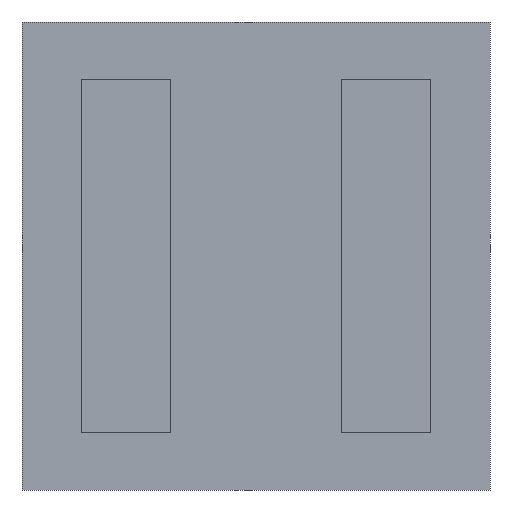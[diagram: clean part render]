
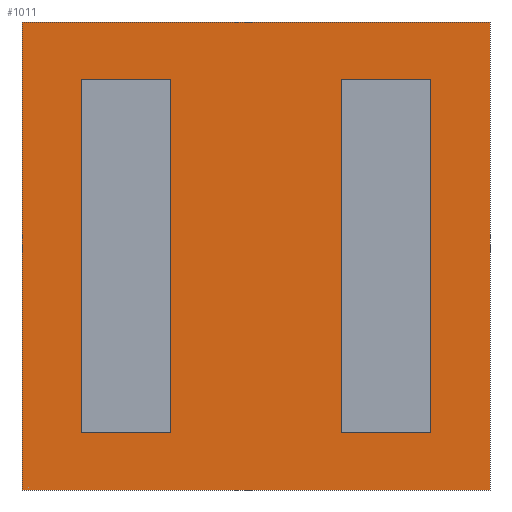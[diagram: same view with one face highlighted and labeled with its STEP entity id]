
A CAD part, front view. The second image highlights one B-rep face of the part: STEP entity #1011.
In plain terms, the highlighted planar face has unit normal (0, -1, 0).
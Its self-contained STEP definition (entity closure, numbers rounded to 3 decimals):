
#17 = CARTESIAN_POINT ( 'NONE',  ( -2.15, 0., 2.15 ) ) ;
#77 = DIRECTION ( 'NONE',  ( 0., 0., -1. ) ) ;
#127 = VECTOR ( 'NONE', #3239, 1000. ) ;
#178 = VERTEX_POINT ( 'NONE', #1830 ) ;
#276 = DIRECTION ( 'NONE',  ( 0., 0., -1. ) ) ;
#338 = CARTESIAN_POINT ( 'NONE',  ( 2.15, 0., -2.15 ) ) ;
#347 = VERTEX_POINT ( 'NONE', #1071 ) ;
#357 = VECTOR ( 'NONE', #77, 1000. ) ;
#426 = EDGE_CURVE ( 'NONE', #178, #2842, #894, .T. ) ;
#439 = DIRECTION ( 'NONE',  ( 0., 1., 0. ) ) ;
#465 = CARTESIAN_POINT ( 'NONE',  ( -2.15, 0., -2.15 ) ) ;
#470 = DIRECTION ( 'NONE',  ( 1., 0., 0. ) ) ;
#503 = EDGE_CURVE ( 'NONE', #1409, #2242, #2109, .T. ) ;
#525 = DIRECTION ( 'NONE',  ( 1., 0., 0. ) ) ;
#555 = VECTOR ( 'NONE', #276, 1000. ) ;
#557 = CARTESIAN_POINT ( 'NONE',  ( 2.15, 0., -2.15 ) ) ;
#562 = LINE ( 'NONE', #2851, #555 ) ;
#654 = FACE_BOUND ( 'NONE', #3563, .T. ) ;
#659 = ORIENTED_EDGE ( 'NONE', *, *, #503, .F. ) ;
#666 = ORIENTED_EDGE ( 'NONE', *, *, #3324, .F. ) ;
#681 = VECTOR ( 'NONE', #1121, 1000. ) ;
#723 = VERTEX_POINT ( 'NONE', #3195 ) ;
#777 = LINE ( 'NONE', #1073, #3430 ) ;
#790 = DIRECTION ( 'NONE',  ( 0., 0., 1. ) ) ;
#805 = VERTEX_POINT ( 'NONE', #999 ) ;
#825 = EDGE_CURVE ( 'NONE', #723, #805, #1076, .T. ) ;
#851 = CARTESIAN_POINT ( 'NONE',  ( 1.605, 0., 1.625 ) ) ;
#894 = LINE ( 'NONE', #851, #3004 ) ;
#913 = ORIENTED_EDGE ( 'NONE', *, *, #1844, .F. ) ;
#922 = CARTESIAN_POINT ( 'NONE',  ( -0.785, 0., 1.625 ) ) ;
#999 = CARTESIAN_POINT ( 'NONE',  ( -1.605, 0., 1.625 ) ) ;
#1011 = ADVANCED_FACE ( 'NONE', ( #2135, #3234, #654 ), #2151, .F. ) ;
#1037 = LINE ( 'NONE', #465, #1762 ) ;
#1053 = EDGE_CURVE ( 'NONE', #3213, #178, #777, .T. ) ;
#1064 = CARTESIAN_POINT ( 'NONE',  ( -2.15, 0., -2.15 ) ) ;
#1066 = CARTESIAN_POINT ( 'NONE',  ( 1.605, 0., -1.625 ) ) ;
#1071 = CARTESIAN_POINT ( 'NONE',  ( -2.15, 0., 2.15 ) ) ;
#1073 = CARTESIAN_POINT ( 'NONE',  ( 1.605, 0., -1.625 ) ) ;
#1076 = LINE ( 'NONE', #1846, #3599 ) ;
#1121 = DIRECTION ( 'NONE',  ( -1., 0., 0. ) ) ;
#1254 = ORIENTED_EDGE ( 'NONE', *, *, #825, .F. ) ;
#1391 = VECTOR ( 'NONE', #3183, 1000. ) ;
#1403 = CARTESIAN_POINT ( 'NONE',  ( -2.15, 0., -2.15 ) ) ;
#1407 = DIRECTION ( 'NONE',  ( -1., 0., 0. ) ) ;
#1409 = VERTEX_POINT ( 'NONE', #2078 ) ;
#1428 = CARTESIAN_POINT ( 'NONE',  ( 0.785, 0., -1.625 ) ) ;
#1495 = CARTESIAN_POINT ( 'NONE',  ( 0.785, 0., 1.625 ) ) ;
#1576 = DIRECTION ( 'NONE',  ( 1., 0., 0. ) ) ;
#1580 = ORIENTED_EDGE ( 'NONE', *, *, #2340, .F. ) ;
#1600 = EDGE_CURVE ( 'NONE', #3196, #723, #3469, .T. ) ;
#1604 = ORIENTED_EDGE ( 'NONE', *, *, #3229, .F. ) ;
#1609 = ORIENTED_EDGE ( 'NONE', *, *, #2025, .F. ) ;
#1645 = LINE ( 'NONE', #17, #2461 ) ;
#1762 = VECTOR ( 'NONE', #790, 1000. ) ;
#1801 = DIRECTION ( 'NONE',  ( 1., 0., 0. ) ) ;
#1821 = AXIS2_PLACEMENT_3D ( 'NONE', #3013, #439, #1801 ) ;
#1830 = CARTESIAN_POINT ( 'NONE',  ( 1.605, 0., 1.625 ) ) ;
#1844 = EDGE_CURVE ( 'NONE', #2124, #3196, #3038, .T. ) ;
#1846 = CARTESIAN_POINT ( 'NONE',  ( -1.605, 0., 1.625 ) ) ;
#1888 = ORIENTED_EDGE ( 'NONE', *, *, #1053, .F. ) ;
#1919 = CARTESIAN_POINT ( 'NONE',  ( 1.605, 0., -1.625 ) ) ;
#1920 = ORIENTED_EDGE ( 'NONE', *, *, #426, .F. ) ;
#1975 = ORIENTED_EDGE ( 'NONE', *, *, #3326, .F. ) ;
#2025 = EDGE_CURVE ( 'NONE', #805, #2124, #562, .T. ) ;
#2047 = CARTESIAN_POINT ( 'NONE',  ( 0.785, 0., 1.625 ) ) ;
#2078 = CARTESIAN_POINT ( 'NONE',  ( 2.15, 0., 2.15 ) ) ;
#2109 = LINE ( 'NONE', #338, #357 ) ;
#2120 = VECTOR ( 'NONE', #470, 1000. ) ;
#2124 = VERTEX_POINT ( 'NONE', #2703 ) ;
#2135 = FACE_OUTER_BOUND ( 'NONE', #2732, .T. ) ;
#2151 = PLANE ( 'NONE',  #1821 ) ;
#2155 = ORIENTED_EDGE ( 'NONE', *, *, #1600, .F. ) ;
#2242 = VERTEX_POINT ( 'NONE', #557 ) ;
#2281 = EDGE_LOOP ( 'NONE', ( #1888, #2709, #1580, #1920 ) ) ;
#2340 = EDGE_CURVE ( 'NONE', #2842, #2543, #2568, .T. ) ;
#2440 = DIRECTION ( 'NONE',  ( 0., 0., 1. ) ) ;
#2461 = VECTOR ( 'NONE', #525, 1000. ) ;
#2477 = CARTESIAN_POINT ( 'NONE',  ( -1.605, 0., -1.625 ) ) ;
#2514 = DIRECTION ( 'NONE',  ( -1., 0., 0. ) ) ;
#2543 = VERTEX_POINT ( 'NONE', #1428 ) ;
#2568 = LINE ( 'NONE', #2047, #1391 ) ;
#2703 = CARTESIAN_POINT ( 'NONE',  ( -1.605, 0., -1.625 ) ) ;
#2709 = ORIENTED_EDGE ( 'NONE', *, *, #3260, .F. ) ;
#2725 = VERTEX_POINT ( 'NONE', #1064 ) ;
#2732 = EDGE_LOOP ( 'NONE', ( #659, #666, #1604, #1975 ) ) ;
#2793 = LINE ( 'NONE', #1403, #681 ) ;
#2842 = VERTEX_POINT ( 'NONE', #1495 ) ;
#2851 = CARTESIAN_POINT ( 'NONE',  ( -1.605, 0., -1.625 ) ) ;
#3004 = VECTOR ( 'NONE', #1407, 1000. ) ;
#3005 = LINE ( 'NONE', #1919, #3190 ) ;
#3013 = CARTESIAN_POINT ( 'NONE',  ( 0., 0., 0. ) ) ;
#3038 = LINE ( 'NONE', #2477, #2120 ) ;
#3183 = DIRECTION ( 'NONE',  ( 0., 0., -1. ) ) ;
#3190 = VECTOR ( 'NONE', #1576, 1000. ) ;
#3195 = CARTESIAN_POINT ( 'NONE',  ( -0.785, 0., 1.625 ) ) ;
#3196 = VERTEX_POINT ( 'NONE', #3322 ) ;
#3213 = VERTEX_POINT ( 'NONE', #1066 ) ;
#3229 = EDGE_CURVE ( 'NONE', #2725, #347, #1037, .T. ) ;
#3234 = FACE_BOUND ( 'NONE', #2281, .T. ) ;
#3239 = DIRECTION ( 'NONE',  ( 0., 0., 1. ) ) ;
#3260 = EDGE_CURVE ( 'NONE', #2543, #3213, #3005, .T. ) ;
#3322 = CARTESIAN_POINT ( 'NONE',  ( -0.785, 0., -1.625 ) ) ;
#3324 = EDGE_CURVE ( 'NONE', #347, #1409, #1645, .T. ) ;
#3326 = EDGE_CURVE ( 'NONE', #2242, #2725, #2793, .T. ) ;
#3430 = VECTOR ( 'NONE', #2440, 1000. ) ;
#3469 = LINE ( 'NONE', #922, #127 ) ;
#3563 = EDGE_LOOP ( 'NONE', ( #1254, #2155, #913, #1609 ) ) ;
#3599 = VECTOR ( 'NONE', #2514, 1000. ) ;
